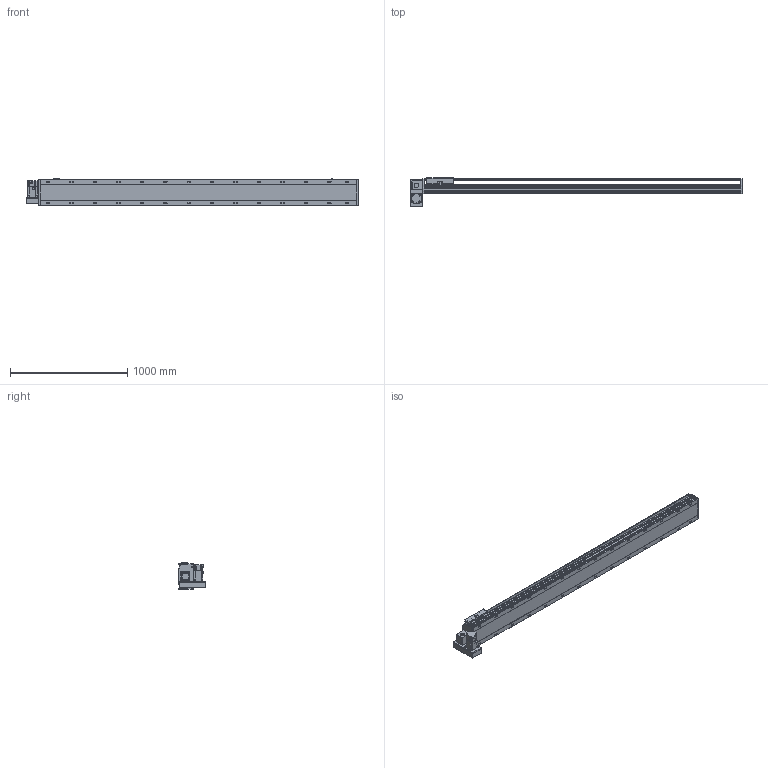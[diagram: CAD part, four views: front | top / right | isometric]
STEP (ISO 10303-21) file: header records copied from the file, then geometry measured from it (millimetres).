
FILE_DESCRIPTION(/* description */ ('STEP AP214'),/* implementation_level */ '2;1');
FILE_NAME(/* name */ 'PBS220-P40-S2350-LD-T75-C1-N(0)',/* time_stamp */ '2022-06-27T09:46:03+02:00',/* author */ ('License CC BY-ND 4.0'),/* organization */ ('CADENAS'),/* preprocessor_version */ 'ST-DEVELOPER v18.102',/* originating_system */ 'PARTsolutions',/* authorisation */ ' ');
FILE_SCHEMA (('AUTOMOTIVE_DESIGN {1 0 10303 214 3 1 1}'));
Length unit declared in the file: millimetre
Products named in the file (7): PBS220-P40-S2350-LD-T75-C1-N(0); PBS220_sensor; PBS220_plant; PBS220_sliser; T75-p1; PBS220T-LD_motors; PBS220-S2350()_body
Assembly tree (8 placements, depth 2):
  PBS220-P40-S2350-LD-T75-C1-N(0)
    PBS220_sensor  x3
    PBS220_plant
    PBS220_sliser
    T75-p1
    PBS220T-LD_motors
    PBS220-S2350()_body
Bounding box: 2834 x 239 x 238.5 mm (x, y, z)
Volume: 39639273.3 mm3; surface area: 3647209.2 mm2
Topology: 8 solids, 8 shells, 986 faces, 2564 edges, 1666 vertices
Faces by surface type: plane 622, cylinder 312, cone 52
Full cylindrical faces by diameter (mm): 2.013 x4, 4.5 x14, 4.917 x4, 6 x7, 6.647 x8, 8 x10, 8.376 x28, 8.5 x28, 10 x6, 14 x28, 38 x2, 40 x1, 70 x1
Entity records: 27500 total; most frequent: CARTESIAN_POINT 4888, DIRECTION 4779, ORIENTED_EDGE 4322, EDGE_CURVE 2161, AXIS2_PLACEMENT_3D 1711, VERTEX_POINT 1512, LINE 1357, VECTOR 1357
